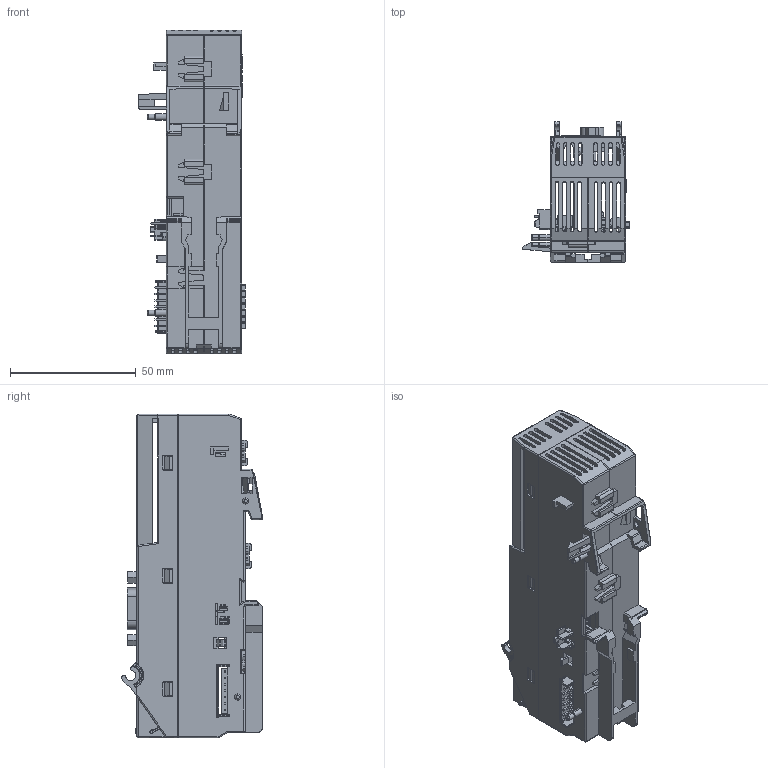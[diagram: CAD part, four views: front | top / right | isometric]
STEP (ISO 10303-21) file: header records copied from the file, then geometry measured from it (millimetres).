
FILE_DESCRIPTION((''),'2;1');
FILE_NAME('2036222','2024-03-06T16:26:56',('t.hampe'),(''),'CREO PARAMETRIC BY PTC INC, 2019292','CREO PARAMETRIC BY PTC INC, 2019292','');
FILE_SCHEMA(('AUTOMOTIVE_DESIGN { 1 0 10303 214 1 1 1 1 }'));
Products named in the file (1): 2036222
Bounding box: 42.27 x 55.97 x 128.92 mm (x, y, z)
Volume: 37522.5 mm3; surface area: 55774.2 mm2
Topology: 12 solids, 12 shells, 3537 faces, 9513 edges, 5976 vertices
Faces by surface type: plane 2269, cylinder 927, cone 155, torus 86, sphere 57, bspline 30, extrusion 13
Entity records: 174477 total; most frequent: CARTESIAN_POINT 31239, ORIENTED_EDGE 18966, DIRECTION 17416, PRESENTATION_STYLE_ASSIGNMENT 12982, STYLED_ITEM 9508, CURVE_STYLE 9497, EDGE_CURVE 9483, VECTOR 7248
